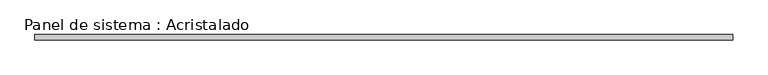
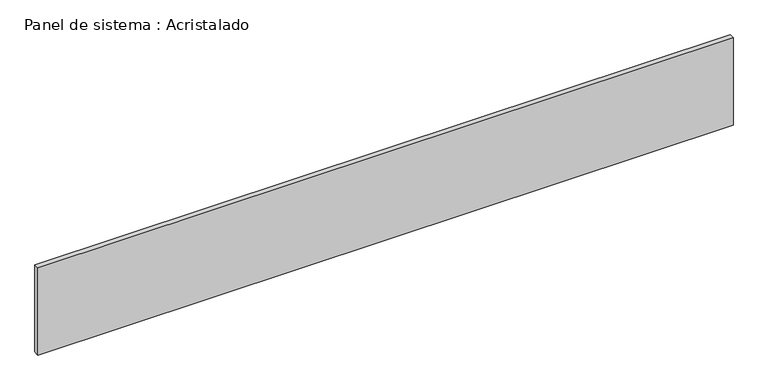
"""IFC4 building model written with IfcOpenShell, lengths in millimetres: plate geometry, Panel de sistema : Acristalado."""

import ifcopenshell
import ifcopenshell.guid

model = None  # the IFC model being written
_history = None  # IfcOwnerHistory: only IFC2X3 demands one
_inside = {}  # id of a spatial element -> (the spatial element, [elements in it])
_under = {}  # id of a project, library or spatial element -> (it, [spatial elements below it])
_declared = {}  # id of a project -> (the project, [libraries it declares])
_typed = {}  # id of a type object -> (the type object, [elements of that type])
_made_of = {}  # id of a material, layer set ... -> (it, [elements and type objects made of it])


def new_model(schema):
    """Start an empty IFC model of exactly this schema.

    Asked for "IFC4X3", IfcOpenShell would pick the latest addendum, in which some entities
    have other attributes; the version numbers below select the first issue.
    IFC2X3 requires an IfcOwnerHistory on every rooted entity: one is made here for all.
    """
    global model, _history
    if schema == "IFC4X3":
        model = ifcopenshell.file(schema_version=(4, 3, 0, 0))
    else:
        model = ifcopenshell.file(schema=schema)
    _inside.clear()
    _under.clear()
    _declared.clear()
    _typed.clear()
    _made_of.clear()
    _history = None
    if model.schema == "IFC2X3":
        org = make("IfcOrganization", Name="unknown")
        user = make(
            "IfcPersonAndOrganization",
            ThePerson=make("IfcPerson", FamilyName="unknown"),
            TheOrganization=org,
        )
        app = make(
            "IfcApplication",
            ApplicationDeveloper=org,
            Version="unknown",
            ApplicationFullName="unknown",
            ApplicationIdentifier="unknown",
        )
        _history = make(
            "IfcOwnerHistory",
            OwningUser=user,
            OwningApplication=app,
            ChangeAction="ADDED",
            CreationDate=0,
        )
    return model


def make(cls, **values):
    """One entity of the class cls with the attributes given. An attribute that is None is left unset."""
    return model.create_entity(
        cls, **{name: value for name, value in values.items() if value is not None}
    )


def rooted(cls, **values):
    """An entity with a GlobalId (a new one), such as an element, a storey or a relation."""
    return make(cls, GlobalId=ifcopenshell.guid.new(), OwnerHistory=_history, **values)


def si_unit(unit_type, name, prefix=None):
    """IfcSIUnit, for example si_unit("LENGTHUNIT", "METRE", prefix="MILLI")."""
    return make("IfcSIUnit", UnitType=unit_type, Prefix=prefix, Name=name)


def assignment(units):
    """IfcUnitAssignment: the units of a project."""
    return None if units is None else make("IfcUnitAssignment", Units=units)


def point(xyz):
    """IfcCartesianPoint."""
    return None if xyz is None else make("IfcCartesianPoint", Coordinates=xyz)


def direction(xyz):
    """IfcDirection."""
    return None if xyz is None else make("IfcDirection", DirectionRatios=xyz)


def frame(location, z_axis=None, x_axis=None):
    """IfcAxis2Placement3D, a coordinate frame: its origin and axes. An axis left out is left unset."""
    return make(
        "IfcAxis2Placement3D",
        Location=point(location),
        Axis=direction(z_axis),
        RefDirection=direction(x_axis),
    )


def origin():
    """The frame at (0, 0, 0) with its axes left unset."""
    return frame((0.0, 0.0, 0.0))


def origin_with_axes():
    """The frame at (0, 0, 0) with the z axis (0, 0, 1) and the x axis (1, 0, 0) written out."""
    return frame((0.0, 0.0, 0.0), z_axis=(0.0, 0.0, 1.0), x_axis=(1.0, 0.0, 0.0))


def place(relative_to, where):
    """IfcLocalPlacement: puts the frame where relative to a parent placement (None: the world)."""
    return make(
        "IfcLocalPlacement", PlacementRelTo=relative_to, RelativePlacement=where
    )


def context(
    kind, dimensions, precision=None, world=None, true_north=None, identifier=None
):
    """IfcGeometricRepresentationContext, for example the 3D "Model" context."""
    return make(
        "IfcGeometricRepresentationContext",
        ContextIdentifier=identifier,
        ContextType=kind,
        CoordinateSpaceDimension=dimensions,
        Precision=precision,
        WorldCoordinateSystem=world,
        TrueNorth=true_north,
    )


def project(units=None, contexts=None):
    """IfcProject with its units and contexts."""
    return rooted(
        "IfcProject",
        Name="project",
        RepresentationContexts=contexts,
        UnitsInContext=assignment(units),
    )


def spatial(cls, under=None, at=None, **own):
    """A site, building, storey or space (cls), placed at a placement, below another one or the project."""
    s = rooted(cls, ObjectPlacement=at, **own)
    if under is not None:
        _under.setdefault(under.id(), (under, []))[1].append(s)
    return s


def polyline(points):
    """IfcPolyline through the points."""
    return make("IfcPolyline", Points=[point(p) for p in points])


def outline(outer, holes=None, kind="AREA"):
    """IfcArbitraryClosedProfileDef: a profile drawn as a closed curve; with holes, ...WithVoids."""
    if holes is None:
        return make("IfcArbitraryClosedProfileDef", ProfileType=kind, OuterCurve=outer)
    return make(
        "IfcArbitraryProfileDefWithVoids",
        ProfileType=kind,
        OuterCurve=outer,
        InnerCurves=holes,
    )


def extrude(swept, where, along, depth):
    """IfcExtrudedAreaSolid: the profile swept, set in the frame where, extruded along a direction by depth."""
    return make(
        "IfcExtrudedAreaSolid",
        SweptArea=swept,
        Position=where,
        ExtrudedDirection=direction(along),
        Depth=depth,
    )


def shape(context_of_items, identifier, shape_type, items):
    """IfcShapeRepresentation: the items that make up one representation, for example the "Body"."""
    return make(
        "IfcShapeRepresentation",
        ContextOfItems=context_of_items,
        RepresentationIdentifier=identifier,
        RepresentationType=shape_type,
        Items=items,
    )


def source(mapping_origin, context_of_items, identifier, shape_type, items):
    """IfcRepresentationMap: a shape defined once, which mapped items show again and again."""
    return make(
        "IfcRepresentationMap",
        MappingOrigin=mapping_origin,
        MappedRepresentation=shape(context_of_items, identifier, shape_type, items),
    )


def transform(
    local_origin,
    x_axis=None,
    y_axis=None,
    z_axis=None,
    scale=None,
    scale2=None,
    scale3=None,
    uniform=True,
):
    """IfcCartesianTransformationOperator3D, or its non-uniform kind. x_axis, y_axis, z_axis: its Axis1, 2, 3."""
    if uniform:
        return make(
            "IfcCartesianTransformationOperator3D",
            Axis1=direction(x_axis),
            Axis2=direction(y_axis),
            LocalOrigin=point(local_origin),
            Scale=scale,
            Axis3=direction(z_axis),
        )
    return make(
        "IfcCartesianTransformationOperator3DnonUniform",
        Axis1=direction(x_axis),
        Axis2=direction(y_axis),
        LocalOrigin=point(local_origin),
        Scale=scale,
        Axis3=direction(z_axis),
        Scale2=scale2,
        Scale3=scale3,
    )


def mapped(mapping_source, mapping_target):
    """IfcMappedItem: shows the shape of a source again, moved by a transform."""
    return make(
        "IfcMappedItem", MappingSource=mapping_source, MappingTarget=mapping_target
    )


def made_of(thing, what):
    """Note that an element or type object is made of a material, layer set ...; save() writes the relation."""
    if what is not None:
        _made_of.setdefault(what.id(), (what, []))[1].append(thing)
    return thing


def element(
    cls,
    number,
    at=None,
    inside=None,
    cuts=None,
    type_object=None,
    material=None,
    context=None,
    identifier="Body",
    shape_type=None,
    held_by="IfcProductDefinitionShape",
    body=None,
    shapes=None,
    **own,
):
    """One element of the class cls, such as IfcWall. Its Tag is "e" and its number.

    at: its placement. inside: the storey or other place that contains it. cuts: it is an
    opening in that element (IfcRelVoidsElement). A single representation is given by context,
    identifier, shape_type and body (its items); several are given by shapes. held_by: the class
    of the entity that holds the representations. save() writes the other relations.
    """
    e = rooted(cls, Tag="e%d" % number, ObjectPlacement=at, **own)
    if body is not None:
        shapes = [shape(context, identifier, shape_type, body)]
    if shapes is not None:
        e.Representation = make(held_by, Representations=shapes)
    if inside is not None:
        _inside.setdefault(inside.id(), (inside, []))[1].append(e)
    if cuts is not None:
        rooted(
            "IfcRelVoidsElement", RelatingBuildingElement=cuts, RelatedOpeningElement=e
        )
    if type_object is not None:
        _typed.setdefault(type_object.id(), (type_object, []))[1].append(e)
    return made_of(e, material)


def aggregate(whole, parts):
    """IfcRelAggregates: a whole, such as a stair, and the parts it consists of."""
    return rooted("IfcRelAggregates", RelatingObject=whole, RelatedObjects=parts)


def save(model, path):
    """Write the relations noted so far, then the file.

    IfcRelAggregates (storeys below a building ...), IfcRelContainedInSpatialStructure (elements
    in a storey), IfcRelDefinesByType, IfcRelAssociatesMaterial and IfcRelDeclares: one each for
    every whole, place, type object, material and project.
    """
    for whole, parts in _under.values():
        aggregate(whole, parts)
    for where, things in _inside.values():
        rooted(
            "IfcRelContainedInSpatialStructure",
            RelatedElements=things,
            RelatingStructure=where,
        )
    for kind, things in _typed.values():
        rooted("IfcRelDefinesByType", RelatedObjects=things, RelatingType=kind)
    for what, things in _made_of.values():
        rooted("IfcRelAssociatesMaterial", RelatedObjects=things, RelatingMaterial=what)
    for by, libraries in _declared.values():
        rooted("IfcRelDeclares", RelatingContext=by, RelatedDefinitions=libraries)
    model.write(path)


def panel_de_sistema_acristalado_60d12fba(model_context):
    return source(origin(), model_context, "Body", "SweptSolid", [
        extrude(outline(polyline([(1316.702362, -10.0), (-1316.702362, -10.0), (-1316.702362, 10.0), (1316.702362, 10.0), (1316.702362, -10.0)])), origin_with_axes(), (0.0, 0.0, 1.0), 350.0),
    ])


if __name__ == "__main__":
    model = new_model("IFC4")
    model_context = context("Model", 3, world=origin())
    ifc_project = project(units=[si_unit("LENGTHUNIT", "METRE", prefix="MILLI")], contexts=[model_context])
    site = spatial("IfcSite", under=ifc_project)
    building = spatial("IfcBuilding", under=site)
    placement = place(None, origin())
    panel_de_sistema_acristalado_shape = panel_de_sistema_acristalado_60d12fba(model_context)
    element("IfcPlate", 1, ObjectType="Panel de sistema : Acristalado", at=placement, inside=building, context=model_context, shape_type="MappedRepresentation", body=[
        mapped(panel_de_sistema_acristalado_shape, transform((0.0, 0.0, 0.0), x_axis=(1.0, 0.0, 0.0), y_axis=(0.0, 1.0, 0.0), z_axis=(0.0, 0.0, 1.0))),
    ])
    save(model, "model.ifc")
